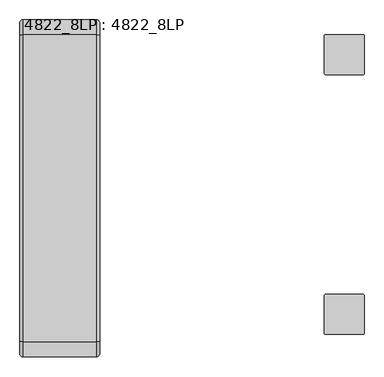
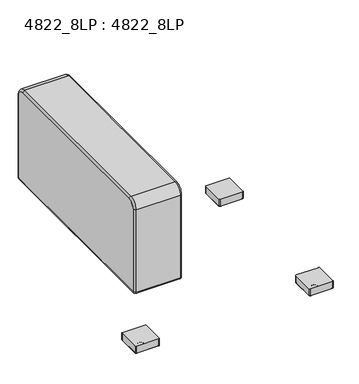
"""IFC4 building model written with IfcOpenShell, lengths in millimetres: furniture geometry, 4822_8LP : 4822_8LP."""

from ifc_helpers import new_model, si_unit, point, frame, frame_2d, origin, place, context, project, spatial, polyline, circle_curve, ellipse_curve, trimmed, segment, composite_curve, outline, extrude, source, transform, mapped, element, save
from ifc_brep_helpers import plane_surface, cylinder_surface, revolved_surface, advanced_brep


def furniture_4822_8lp_4822_8lp_c2619356(model_context):
    return source(origin(), model_context, "Body", "SolidModel", [
        advanced_brep(
        [(-254.0, -8.89, 698.8175), (-254.0, -38.1, 728.0275), (-254.0, -819.15, 728.0275), (-254.0, -848.36, 698.8175), (-254.0, -848.36, 330.4403326), (-254.0, -847.8021674, 329.8825), (-254.0, -9.4347305, 329.8825), (-254.0, -8.89, 330.4272305), (-457.2, -38.1, 728.0275), (-457.2, -8.89, 698.8175), (-457.2, -8.89, 330.4272305), (-457.2, -9.4347305, 329.8825), (-457.2, -847.8021674, 329.8825), (-457.2, -848.36, 330.4403326), (-457.2, -848.36, 698.8175), (-457.2, -819.15, 728.0275), (-448.31, -38.1, 736.9175), (-448.31, -819.15, 736.9175), (-262.89, -819.15, 736.9175), (-262.89, -38.1, 736.9175), (-448.31, -857.25, 698.8175), (-262.89, -857.25, 698.8175), (-448.31, -857.25, 330.4403326), (-262.89, -857.25, 330.4403326), (-448.31, -847.8021674, 320.9925), (-262.89, -847.8021674, 320.9925), (-448.31, -9.4347305, 320.9925), (-262.89, -9.4347305, 320.9925), (-400.05, -187.325, 320.9925), (-400.05, -161.925, 320.9925), (-400.05, -695.325, 320.9925), (-400.05, -669.925, 320.9925), (-448.31, 0.0, 330.4272305), (-262.89, 0.0, 330.4272305), (-448.31, 0.0, 698.8175), (-262.89, 0.0, 698.8175), (-400.05, -161.925, 333.6925), (-400.05, -187.325, 333.6925), (-400.05, -669.925, 333.6925), (-400.05, -695.325, 333.6925)],
        [
            (0, 1, circle_curve(frame((-254.0, -38.1, 698.8175), z_axis=(1.0, 0.0, 0.0), x_axis=(0.0, 0.0, 1.0)), 29.21)),
            (1, 2),
            (2, 3, circle_curve(frame((-254.0, -819.15, 698.8175), z_axis=(1.0, 0.0, 0.0), x_axis=(0.0, -1.0, 0.0)), 29.21)),
            (3, 4),
            (4, 5, circle_curve(frame((-254.0, -847.8021674, 330.4403326), z_axis=(1.0, 0.0, 0.0), x_axis=(0.0, 0.0, -1.0)), 0.5578326)),
            (5, 6),
            (6, 7, circle_curve(frame((-254.0, -9.4347305, 330.4272305), z_axis=(1.0, 0.0, 0.0), x_axis=(0.0, 1.0, 0.0)), 0.5447305)),
            (7, 0),
            (8, 9, circle_curve(frame((-457.2, -38.1, 698.8175), z_axis=(-1.0, 0.0, 0.0), x_axis=(0.0, 0.0, 1.0)), 29.21)),
            (9, 10),
            (10, 11, circle_curve(frame((-457.2, -9.4347305, 330.4272305), z_axis=(-1.0, 0.0, 0.0), x_axis=(0.0, 1.0, 0.0)), 0.5447305)),
            (11, 12),
            (12, 13, circle_curve(frame((-457.2, -847.8021674, 330.4403326), z_axis=(-1.0, 0.0, 0.0), x_axis=(0.0, 0.0, -1.0)), 0.5578326)),
            (13, 14),
            (14, 15, circle_curve(frame((-457.2, -819.15, 698.8175), z_axis=(-1.0, 0.0, 0.0), x_axis=(0.0, -1.0, 0.0)), 29.21)),
            (15, 8),
            (16, 17),
            (17, 18),
            (18, 19),
            (19, 16),
            (17, 20, circle_curve(frame((-448.31, -819.15, 698.8175), z_axis=(1.0, 0.0, 0.0), x_axis=(0.0, -1.0, 0.0)), 38.1)),
            (20, 21),
            (21, 18, circle_curve(frame((-262.89, -819.15, 698.8175), z_axis=(-1.0, 0.0, 0.0), x_axis=(0.0, -1.0, 0.0)), 38.1)),
            (20, 22),
            (22, 23),
            (23, 21),
            (22, 24, circle_curve(frame((-448.31, -847.8021674, 330.4403326), z_axis=(1.0, 0.0, 0.0), x_axis=(0.0, -1.0, 0.0)), 9.4478326)),
            (24, 25),
            (25, 23, circle_curve(frame((-262.89, -847.8021674, 330.4403326), z_axis=(-1.0, 0.0, 0.0), x_axis=(0.0, -1.0, 0.0)), 9.4478326)),
            (24, 26),
            (26, 27),
            (27, 25),
            (28, 29, circle_curve(frame((-400.05, -174.625, 320.9925), z_axis=(0.0, 0.0, 1.0), x_axis=(-1.0, 0.0, 0.0)), 12.7)),
            (29, 28),
            (30, 31, circle_curve(frame((-400.05, -682.625, 320.9925), z_axis=(0.0, 0.0, 1.0), x_axis=(-1.0, 0.0, 0.0)), 12.7)),
            (31, 30),
            (26, 32, circle_curve(frame((-448.31, -9.4347305, 330.4272305), z_axis=(1.0, 0.0, 0.0), x_axis=(0.0, -1.0, 0.0)), 9.4347305)),
            (32, 33),
            (33, 27, circle_curve(frame((-262.89, -9.4347305, 330.4272305), z_axis=(-1.0, 0.0, 0.0), x_axis=(0.0, -1.0, 0.0)), 9.4347305)),
            (32, 34),
            (34, 35),
            (35, 33),
            (34, 16, circle_curve(frame((-448.31, -38.1, 698.8175), z_axis=(1.0, 0.0, 0.0), x_axis=(0.0, -1.0, 0.0)), 38.1)),
            (19, 35, circle_curve(frame((-262.89, -38.1, 698.8175), z_axis=(-1.0, 0.0, 0.0), x_axis=(0.0, -1.0, 0.0)), 38.1)),
            (34, 9, circle_curve(frame((-448.31, -8.89, 698.8175), z_axis=(0.0, 0.0, 1.0), x_axis=(1.0, 0.0, 0.0)), 8.89)),
            (8, 16, circle_curve(frame((-448.31, -38.1, 728.0275), z_axis=(0.0, 1.0, 0.0), x_axis=(1.0, 0.0, 0.0)), 8.89)),
            (32, 10, circle_curve(frame((-448.31, -8.89, 330.4272305), z_axis=(0.0, 0.0, 1.0), x_axis=(1.0, 0.0, 0.0)), 8.89)),
            (26, 11, circle_curve(frame((-448.31, -9.4347305, 329.8825), z_axis=(0.0, 1.0, 0.0), x_axis=(1.0, 0.0, 0.0)), 8.89)),
            (24, 12, circle_curve(frame((-448.31, -847.8021674, 329.8825), z_axis=(0.0, 1.0, 0.0), x_axis=(1.0, 0.0, 0.0)), 8.89)),
            (22, 13, circle_curve(frame((-448.31, -848.36, 330.4403326), z_axis=(0.0, 0.0, -1.0), x_axis=(1.0, 0.0, 0.0)), 8.89)),
            (20, 14, circle_curve(frame((-448.31, -848.36, 698.8175), z_axis=(0.0, 0.0, -1.0), x_axis=(1.0, 0.0, 0.0)), 8.89)),
            (17, 15, circle_curve(frame((-448.31, -819.15, 728.0275), z_axis=(0.0, -1.0, 0.0), x_axis=(1.0, 0.0, 0.0)), 8.89)),
            (0, 35, circle_curve(frame((-262.89, -8.89, 698.8175), z_axis=(0.0, 0.0, 1.0), x_axis=(-1.0, 0.0, 0.0)), 8.89)),
            (19, 1, circle_curve(frame((-262.89, -38.1, 728.0275), z_axis=(0.0, 1.0, 0.0), x_axis=(-1.0, 0.0, 0.0)), 8.89)),
            (7, 33, circle_curve(frame((-262.89, -8.89, 330.4272305), z_axis=(0.0, 0.0, 1.0), x_axis=(-1.0, 0.0, 0.0)), 8.89)),
            (6, 27, circle_curve(frame((-262.89, -9.4347305, 329.8825), z_axis=(0.0, 1.0, 0.0), x_axis=(-1.0, 0.0, 0.0)), 8.89)),
            (5, 25, circle_curve(frame((-262.89, -847.8021674, 329.8825), z_axis=(0.0, 1.0, 0.0), x_axis=(-1.0, 0.0, 0.0)), 8.89)),
            (4, 23, circle_curve(frame((-262.89, -848.36, 330.4403326), z_axis=(0.0, 0.0, -1.0), x_axis=(-1.0, 0.0, 0.0)), 8.89)),
            (3, 21, circle_curve(frame((-262.89, -848.36, 698.8175), z_axis=(0.0, 0.0, -1.0), x_axis=(-1.0, 0.0, 0.0)), 8.89)),
            (2, 18, circle_curve(frame((-262.89, -819.15, 728.0275), z_axis=(0.0, -1.0, 0.0), x_axis=(-1.0, 0.0, 0.0)), 8.89)),
            (36, 37, circle_curve(frame((-400.05, -174.625, 333.6925), z_axis=(0.0, 0.0, -1.0), x_axis=(-1.0, 0.0, 0.0)), 12.7)),
            (37, 36),
            (38, 39, circle_curve(frame((-400.05, -682.625, 333.6925), z_axis=(0.0, 0.0, -1.0), x_axis=(-1.0, 0.0, 0.0)), 12.7)),
            (39, 38),
            (36, 29),
            (28, 37),
            (38, 31),
            (30, 39),
        ],
        [
            plane_surface(frame((-254.0, -819.15, 736.9175), z_axis=(1.0, 0.0, 0.0), x_axis=(0.0, -1.0, 0.0))),
            plane_surface(frame((-457.2, -819.15, 736.9175), z_axis=(-1.0, 0.0, 0.0), x_axis=(0.0, 1.0, 0.0))),
            plane_surface(frame((-254.0, -38.1, 736.9175), z_axis=(0.0, 0.0, 1.0), x_axis=(-1.0, 0.0, 0.0))),
            cylinder_surface(frame((-457.2, -819.15, 698.8175), z_axis=(1.0, 0.0, 0.0), x_axis=(0.0, -1.0, 0.0)), 38.1),
            plane_surface(frame((-254.0, -857.25, 698.8175), z_axis=(0.0, -1.0, 0.0), x_axis=(-1.0, 0.0, 0.0))),
            cylinder_surface(frame((-457.2, -847.8021674, 330.4403326), z_axis=(1.0, 0.0, 0.0), x_axis=(0.0, -1.0, 0.0)), 9.4478326),
            plane_surface(frame((-254.0, -847.8021674, 320.9925), z_axis=(0.0, 0.0, -1.0), x_axis=(-1.0, 0.0, 0.0))),
            cylinder_surface(frame((-457.2, -9.4347305, 330.4272305), z_axis=(1.0, 0.0, 0.0), x_axis=(0.0, -1.0, 0.0)), 9.4347305),
            plane_surface(frame((-254.0, 0.0, 330.4272305), z_axis=(0.0, 1.0, 0.0), x_axis=(-1.0, 0.0, 0.0))),
            cylinder_surface(frame((-457.2, -38.1, 698.8175), z_axis=(1.0, 0.0, 0.0), x_axis=(0.0, -1.0, 0.0)), 38.1),
            revolved_surface(trimmed(ellipse_curve(frame((-448.31, -38.1, 728.0275), z_axis=(0.0, -1.0, 0.0), x_axis=(1.0, 0.0, 0.0)), 8.89, 8.89), [point((-448.31, -38.1, 736.9175))], [point((-457.2, -38.1, 728.0275))], True, "CARTESIAN"), (-457.2, -38.1, 698.8175), (-1.0, 0.0, 0.0)),
            cylinder_surface(frame((-448.31, -8.89, 698.8175), z_axis=(0.0, 0.0, -1.0), x_axis=(1.0, 0.0, 0.0)), 8.89),
            revolved_surface(trimmed(ellipse_curve(frame((-448.31, -8.89, 330.4272305), z_axis=(0.0, 0.0, 1.0), x_axis=(1.0, 0.0, 0.0)), 8.89, 8.89), [point((-448.31, 0.0, 330.4272305))], [point((-457.2, -8.89, 330.4272305))], True, "CARTESIAN"), (-457.2, -9.4347305, 330.4272305), (-1.0, 0.0, 0.0)),
            cylinder_surface(frame((-448.31, -9.4347305, 329.8825), z_axis=(0.0, -1.0, 0.0), x_axis=(1.0, 0.0, 0.0)), 8.89),
            revolved_surface(trimmed(ellipse_curve(frame((-448.31, -847.8021674, 329.8825), z_axis=(0.0, 1.0, 0.0), x_axis=(1.0, 0.0, 0.0)), 8.89, 8.89), [point((-448.31, -847.8021674, 320.9925))], [point((-457.2, -847.8021674, 329.8825))], True, "CARTESIAN"), (-457.2, -847.8021674, 330.4403326), (-1.0, 0.0, 0.0)),
            cylinder_surface(frame((-448.31, -848.36, 330.4403326), z_axis=(0.0, 0.0, 1.0), x_axis=(1.0, 0.0, 0.0)), 8.89),
            revolved_surface(trimmed(ellipse_curve(frame((-448.31, -848.36, 698.8175), z_axis=(0.0, 0.0, -1.0), x_axis=(1.0, 0.0, 0.0)), 8.89, 8.89), [point((-448.31, -857.25, 698.8175))], [point((-457.2, -848.36, 698.8175))], True, "CARTESIAN"), (-457.2, -819.15, 698.8175), (-1.0, 0.0, 0.0)),
            cylinder_surface(frame((-448.31, -819.15, 728.0275), z_axis=(0.0, 1.0, 0.0), x_axis=(1.0, 0.0, 0.0)), 8.89),
            revolved_surface(trimmed(ellipse_curve(frame((-262.89, -38.1, 728.0275), z_axis=(0.0, -1.0, 0.0), x_axis=(-1.0, 0.0, 0.0)), 8.89, 8.89), [point((-254.0, -38.1, 728.0275))], [point((-262.89, -38.1, 736.9175))], True, "CARTESIAN"), (-254.0, -38.1, 698.8175), (-1.0, 0.0, 0.0)),
            cylinder_surface(frame((-262.89, -8.89, 698.8175), z_axis=(0.0, 0.0, -1.0), x_axis=(-1.0, 0.0, 0.0)), 8.89),
            revolved_surface(trimmed(ellipse_curve(frame((-262.89, -8.89, 330.4272305), z_axis=(0.0, 0.0, 1.0), x_axis=(-1.0, 0.0, 0.0)), 8.89, 8.89), [point((-254.0, -8.89, 330.4272305))], [point((-262.89, 0.0, 330.4272305))], True, "CARTESIAN"), (-254.0, -9.4347305, 330.4272305), (-1.0, 0.0, 0.0)),
            cylinder_surface(frame((-262.89, -9.4347305, 329.8825), z_axis=(0.0, -1.0, 0.0), x_axis=(-1.0, 0.0, 0.0)), 8.89),
            revolved_surface(trimmed(ellipse_curve(frame((-262.89, -847.8021674, 329.8825), z_axis=(0.0, 1.0, 0.0), x_axis=(-1.0, 0.0, 0.0)), 8.89, 8.89), [point((-254.0, -847.8021674, 329.8825))], [point((-262.89, -847.8021674, 320.9925))], True, "CARTESIAN"), (-254.0, -847.8021674, 330.4403326), (-1.0, 0.0, 0.0)),
            cylinder_surface(frame((-262.89, -848.36, 330.4403326), z_axis=(0.0, 0.0, 1.0), x_axis=(-1.0, 0.0, 0.0)), 8.89),
            revolved_surface(trimmed(ellipse_curve(frame((-262.89, -848.36, 698.8175), z_axis=(0.0, 0.0, -1.0), x_axis=(-1.0, 0.0, 0.0)), 8.89, 8.89), [point((-254.0, -848.36, 698.8175))], [point((-262.89, -857.25, 698.8175))], True, "CARTESIAN"), (-254.0, -819.15, 698.8175), (-1.0, 0.0, 0.0)),
            cylinder_surface(frame((-262.89, -819.15, 728.0275), z_axis=(0.0, 1.0, 0.0), x_axis=(-1.0, 0.0, 0.0)), 8.89),
            plane_surface(frame((-400.05, -187.325, 333.6925), z_axis=(0.0, 0.0, -1.0), x_axis=(0.0, -1.0, 0.0))),
            revolved_surface(polyline([(-412.75, -174.625, 333.6925), (-412.75, -174.625, 320.9925)]), (-400.05, -174.625, 320.9925), (0.0, 0.0, 1.0)),
            plane_surface(frame((-400.05, -161.925, 333.6925), z_axis=(1.0, 0.0, 0.0), x_axis=(0.0, 0.0, -1.0))),
            revolved_surface(polyline([(-412.75, -682.625, 333.6925), (-412.75, -682.625, 320.9925)]), (-400.05, -682.625, 9.8425), (0.0, 0.0, 1.0)),
            plane_surface(frame((-400.05, -669.925, 333.6925), z_axis=(1.0, 0.0, 0.0), x_axis=(0.0, 0.0, -1.0))),
        ],
        [
            (0, [[1, 2, 3, 4, 5, 6, 7, 8]]),
            (1, [[9, 10, 11, 12, 13, 14, 15, 16]]),
            (2, [[17, 18, 19, 20]]),
            (3, [[21, 22, 23, -18]]),
            (4, [[24, 25, 26, -22]]),
            (5, [[27, 28, 29, -25]]),
            (6, [[30, 31, 32, -28], [33, 34], [35, 36]]),
            (7, [[37, 38, 39, -31]]),
            (8, [[40, 41, 42, -38]]),
            (9, [[43, -20, 44, -41]]),
            (10, [[45, -9, 46, -43]]),
            (11, [[-45, -40, 47, -10]]),
            (12, [[-47, -37, 48, -11]]),
            (13, [[-48, -30, 49, -12]]),
            (14, [[-49, -27, 50, -13]]),
            (15, [[-50, -24, 51, -14]]),
            (16, [[-51, -21, 52, -15]]),
            (17, [[-46, -16, -52, -17]]),
            (18, [[53, -44, 54, -1]]),
            (19, [[-53, -8, 55, -42]]),
            (20, [[-55, -7, 56, -39]]),
            (21, [[-56, -6, 57, -32]]),
            (22, [[-57, -5, 58, -29]]),
            (23, [[-58, -4, 59, -26]]),
            (24, [[-59, -3, 60, -23]]),
            (25, [[-54, -19, -60, -2]]),
            (26, [[61, 62]]),
            (26, [[63, 64]]),
            (27, [[-61, 65, -33, 66]]),
            (28, [[-62, -66, -34, -65]]),
            (29, [[-63, 67, -35, 68]]),
            (30, [[-64, -68, -36, -67]]),
        ],
    ),
        advanced_brep(
        [(-320.675, -698.5, 41.5925), (-415.925, -698.5, 41.5925), (-419.1, -701.675, 41.5925), (-419.1, -796.925, 41.5925), (-415.925, -800.1, 41.5925), (-320.675, -800.1, 41.5925), (-317.5, -796.925, 41.5925), (-317.5, -701.675, 41.5925), (-417.83, -701.675, 11.1125), (-415.925, -699.77, 11.1125), (-320.675, -699.77, 11.1125), (-318.77, -701.675, 11.1125), (-318.77, -796.925, 11.1125), (-320.675, -798.83, 11.1125), (-415.925, -798.83, 11.1125), (-417.83, -796.925, 11.1125), (-320.675, -698.5, 11.1125), (-415.925, -698.5, 11.1125), (-419.1, -701.675, 11.1125), (-419.1, -796.925, 11.1125), (-415.925, -800.1, 11.1125), (-320.675, -800.1, 11.1125), (-317.5, -796.925, 11.1125), (-317.5, -701.675, 11.1125), (-415.925, -699.77, 9.8425), (-417.83, -701.675, 9.8425), (-320.675, -699.77, 9.8425), (-318.77, -701.675, 9.8425), (-318.77, -796.925, 9.8425), (-320.675, -798.83, 9.8425), (-415.925, -798.83, 9.8425), (-417.83, -796.925, 9.8425)],
        [
            (0, 1),
            (1, 2, circle_curve(frame((-415.925, -701.675, 41.5925), z_axis=(0.0, 0.0, 1.0), x_axis=(1.0, 0.0, 0.0)), 3.175)),
            (2, 3),
            (3, 4, circle_curve(frame((-415.925, -796.925, 41.5925), z_axis=(0.0, 0.0, 1.0), x_axis=(1.0, 0.0, 0.0)), 3.175)),
            (4, 5),
            (5, 6, circle_curve(frame((-320.675, -796.925, 41.5925), z_axis=(0.0, 0.0, 1.0), x_axis=(1.0, 0.0, 0.0)), 3.175)),
            (6, 7),
            (7, 0, circle_curve(frame((-320.675, -701.675, 41.5925), z_axis=(0.0, 0.0, 1.0), x_axis=(1.0, 0.0, 0.0)), 3.175)),
            (8, 9, circle_curve(frame((-415.925, -701.675, 11.1125), z_axis=(0.0, 0.0, -1.0), x_axis=(-1.0, 0.0, 0.0)), 1.905)),
            (9, 10),
            (10, 11, circle_curve(frame((-320.675, -701.675, 11.1125), z_axis=(0.0, 0.0, -1.0), x_axis=(0.0, 1.0, 0.0)), 1.905)),
            (11, 12),
            (12, 13, circle_curve(frame((-320.675, -796.925, 11.1125), z_axis=(0.0, 0.0, -1.0), x_axis=(1.0, 0.0, 0.0)), 1.905)),
            (13, 14),
            (14, 15, circle_curve(frame((-415.925, -796.925, 11.1125), z_axis=(0.0, 0.0, -1.0), x_axis=(0.0, -1.0, 0.0)), 1.905)),
            (15, 8),
            (0, 16),
            (16, 17),
            (17, 1),
            (17, 18, circle_curve(frame((-415.925, -701.675, 11.1125), z_axis=(0.0, 0.0, 1.0), x_axis=(1.0, 0.0, 0.0)), 3.175)),
            (18, 2),
            (18, 19),
            (19, 3),
            (19, 20, circle_curve(frame((-415.925, -796.925, 11.1125), z_axis=(0.0, 0.0, 1.0), x_axis=(1.0, 0.0, 0.0)), 3.175)),
            (20, 4),
            (20, 21),
            (21, 5),
            (21, 22, circle_curve(frame((-320.675, -796.925, 11.1125), z_axis=(0.0, 0.0, 1.0), x_axis=(1.0, 0.0, 0.0)), 3.175)),
            (22, 6),
            (22, 23),
            (23, 7),
            (23, 16, circle_curve(frame((-320.675, -701.675, 11.1125), z_axis=(0.0, 0.0, 1.0), x_axis=(1.0, 0.0, 0.0)), 3.175)),
            (24, 25, circle_curve(frame((-415.925, -701.675, 9.8425), z_axis=(0.0, 0.0, 1.0), x_axis=(-1.0, 0.0, 0.0)), 1.905)),
            (25, 18, circle_curve(frame((-417.83, -701.675, 11.1125), z_axis=(0.0, 1.0, 0.0), x_axis=(1.0, 0.0, 0.0)), 1.27)),
            (17, 24, circle_curve(frame((-415.925, -699.77, 11.1125), z_axis=(-1.0, 0.0, 0.0), x_axis=(0.0, -1.0, 0.0)), 1.27)),
            (16, 26, circle_curve(frame((-320.675, -699.77, 11.1125), z_axis=(-1.0, 0.0, 0.0), x_axis=(0.0, -1.0, 0.0)), 1.27)),
            (26, 24),
            (23, 27, circle_curve(frame((-318.77, -701.675, 11.1125), z_axis=(0.0, 1.0, 0.0), x_axis=(-1.0, 0.0, 0.0)), 1.27)),
            (27, 26, circle_curve(frame((-320.675, -701.675, 9.8425), z_axis=(0.0, 0.0, 1.0), x_axis=(0.0, 1.0, 0.0)), 1.905)),
            (22, 28, circle_curve(frame((-318.77, -796.925, 11.1125), z_axis=(0.0, 1.0, 0.0), x_axis=(-1.0, 0.0, 0.0)), 1.27)),
            (28, 27),
            (21, 29, circle_curve(frame((-320.675, -798.83, 11.1125), z_axis=(1.0, 0.0, 0.0), x_axis=(0.0, 1.0, 0.0)), 1.27)),
            (29, 28, circle_curve(frame((-320.675, -796.925, 9.8425), z_axis=(0.0, 0.0, 1.0), x_axis=(1.0, 0.0, 0.0)), 1.905)),
            (20, 30, circle_curve(frame((-415.925, -798.83, 11.1125), z_axis=(1.0, 0.0, 0.0), x_axis=(0.0, 1.0, 0.0)), 1.27)),
            (30, 29),
            (19, 31, circle_curve(frame((-417.83, -796.925, 11.1125), z_axis=(0.0, -1.0, 0.0), x_axis=(1.0, 0.0, 0.0)), 1.27)),
            (31, 30, circle_curve(frame((-415.925, -796.925, 9.8425), z_axis=(0.0, 0.0, 1.0), x_axis=(0.0, -1.0, 0.0)), 1.905)),
            (25, 31),
            (24, 9),
            (8, 25),
            (26, 10),
            (27, 11),
            (28, 12),
            (29, 13),
            (30, 14),
            (31, 15),
        ],
        [
            plane_surface(frame((-415.925, -698.5, 41.5925), z_axis=(0.0, 0.0, 1.0), x_axis=(-1.0, 0.0, 0.0))),
            plane_surface(frame((-415.925, -698.5, 11.1125), z_axis=(0.0, 0.0, -1.0), x_axis=(1.0, 0.0, 0.0))),
            plane_surface(frame((-320.675, -698.5, 41.5925), z_axis=(0.0, 1.0, 0.0), x_axis=(0.0, 0.0, -1.0))),
            cylinder_surface(frame((-415.925, -701.675, 11.1125), z_axis=(0.0, 0.0, 1.0), x_axis=(1.0, 0.0, 0.0)), 3.175),
            plane_surface(frame((-419.1, -701.675, 41.5925), z_axis=(-1.0, 0.0, 0.0), x_axis=(0.0, 0.0, -1.0))),
            cylinder_surface(frame((-415.925, -796.925, 11.1125), z_axis=(0.0, 0.0, 1.0), x_axis=(1.0, 0.0, 0.0)), 3.175),
            plane_surface(frame((-415.925, -800.1, 41.5925), z_axis=(0.0, -1.0, 0.0), x_axis=(0.0, 0.0, -1.0))),
            cylinder_surface(frame((-320.675, -796.925, 11.1125), z_axis=(0.0, 0.0, 1.0), x_axis=(1.0, 0.0, 0.0)), 3.175),
            plane_surface(frame((-317.5, -796.925, 41.5925), z_axis=(1.0, 0.0, 0.0), x_axis=(0.0, 0.0, -1.0))),
            cylinder_surface(frame((-320.675, -701.675, 11.1125), z_axis=(0.0, 0.0, 1.0), x_axis=(1.0, 0.0, 0.0)), 3.175),
            revolved_surface(trimmed(ellipse_curve(frame((-417.83, -701.675, 11.1125), z_axis=(0.0, -1.0, 0.0), x_axis=(1.0, 0.0, 0.0)), 1.27, 1.27), [point((-419.1, -701.675, 11.1125))], [point((-417.83, -701.675, 9.8425))], True, "CARTESIAN"), (-415.925, -701.675, 11.1125), (0.0, 0.0, -1.0)),
            cylinder_surface(frame((-415.925, -699.77, 11.1125), z_axis=(-1.0, 0.0, 0.0), x_axis=(0.0, -1.0, 0.0)), 1.27),
            revolved_surface(trimmed(ellipse_curve(frame((-320.675, -699.77, 11.1125), z_axis=(-1.0, 0.0, 0.0), x_axis=(0.0, -1.0, 0.0)), 1.27, 1.27), [point((-320.675, -698.5, 11.1125))], [point((-320.675, -699.77, 9.8425))], True, "CARTESIAN"), (-320.675, -701.675, 11.1125), (0.0, 0.0, -1.0)),
            cylinder_surface(frame((-318.77, -701.675, 11.1125), z_axis=(0.0, 1.0, 0.0), x_axis=(-1.0, 0.0, 0.0)), 1.27),
            revolved_surface(trimmed(ellipse_curve(frame((-318.77, -796.925, 11.1125), z_axis=(0.0, 1.0, 0.0), x_axis=(-1.0, 0.0, 0.0)), 1.27, 1.27), [point((-317.5, -796.925, 11.1125))], [point((-318.77, -796.925, 9.8425))], True, "CARTESIAN"), (-320.675, -796.925, 11.1125), (0.0, 0.0, -1.0)),
            cylinder_surface(frame((-320.675, -798.83, 11.1125), z_axis=(1.0, 0.0, 0.0), x_axis=(0.0, 1.0, 0.0)), 1.27),
            revolved_surface(trimmed(ellipse_curve(frame((-415.925, -798.83, 11.1125), z_axis=(1.0, 0.0, 0.0), x_axis=(0.0, 1.0, 0.0)), 1.27, 1.27), [point((-415.925, -800.1, 11.1125))], [point((-415.925, -798.83, 9.8425))], True, "CARTESIAN"), (-415.925, -796.925, 11.1125), (0.0, 0.0, -1.0)),
            cylinder_surface(frame((-417.83, -796.925, 11.1125), z_axis=(0.0, -1.0, 0.0), x_axis=(1.0, 0.0, 0.0)), 1.27),
            revolved_surface(polyline([(-417.83, -701.675, 9.8425), (-417.83, -701.675, 11.1125)]), (-415.925, -701.675, 11.1125), (0.0, 0.0, -1.0)),
            plane_surface(frame((-415.925, -699.77, 9.8425), z_axis=(0.0, -1.0, 0.0), x_axis=(1.0, 0.0, 0.0))),
            revolved_surface(polyline([(-320.675, -699.77, 9.8425), (-320.675, -699.77, 11.1125)]), (-320.675, -701.675, 11.1125), (0.0, 0.0, -1.0)),
            plane_surface(frame((-318.77, -701.675, 9.8425), z_axis=(-1.0, 0.0, 0.0), x_axis=(0.0, -1.0, 0.0))),
            revolved_surface(polyline([(-318.77000000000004, -796.925, 9.8425), (-318.77000000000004, -796.925, 11.1125)]), (-320.675, -796.925, 11.1125), (0.0, 0.0, -1.0)),
            plane_surface(frame((-320.675, -798.83, 9.8425), z_axis=(0.0, 1.0, 0.0), x_axis=(-1.0, 0.0, 0.0))),
            revolved_surface(polyline([(-415.925, -798.8299999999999, 9.8425), (-415.925, -798.8299999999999, 11.1125)]), (-415.925, -796.925, 11.1125), (0.0, 0.0, -1.0)),
            plane_surface(frame((-417.83, -796.925, 9.8425), z_axis=(1.0, 0.0, 0.0), x_axis=(0.0, 1.0, 0.0))),
        ],
        [
            (0, [[1, 2, 3, 4, 5, 6, 7, 8]]),
            (1, [[9, 10, 11, 12, 13, 14, 15, 16]]),
            (2, [[-1, 17, 18, 19]]),
            (3, [[-2, -19, 20, 21]]),
            (4, [[-3, -21, 22, 23]]),
            (5, [[-4, -23, 24, 25]]),
            (6, [[-5, -25, 26, 27]]),
            (7, [[-6, -27, 28, 29]]),
            (8, [[-7, -29, 30, 31]]),
            (9, [[-8, -31, 32, -17]]),
            (10, [[33, 34, -20, 35]]),
            (11, [[-35, -18, 36, 37]]),
            (12, [[-36, -32, 38, 39]]),
            (13, [[-38, -30, 40, 41]]),
            (14, [[-40, -28, 42, 43]]),
            (15, [[-42, -26, 44, 45]]),
            (16, [[-44, -24, 46, 47]]),
            (17, [[-34, 48, -46, -22]]),
            (18, [[-33, 49, -9, 50]]),
            (19, [[-37, 51, -10, -49]]),
            (20, [[-39, 52, -11, -51]]),
            (21, [[-41, 53, -12, -52]]),
            (22, [[-43, 54, -13, -53]]),
            (23, [[-45, 55, -14, -54]]),
            (24, [[-47, 56, -15, -55]]),
            (25, [[-48, -50, -16, -56]]),
        ],
    ),
        extrude(outline(composite_curve([segment(trimmed(circle_curve(frame_2d((-415.925, -796.925)), 1.905), [point((-415.925, -798.83))], [point((-417.83, -796.925))], False, "CARTESIAN"), True, "CONTINUOUS"), segment(polyline([(-417.83, -796.925), (-417.83, -701.675)]), True, "CONTINUOUS"), segment(trimmed(circle_curve(frame_2d((-415.925, -701.675)), 1.905), [point((-417.83, -701.675))], [point((-415.925, -699.77))], False, "CARTESIAN"), True, "CONTINUOUS"), segment(polyline([(-415.925, -699.77), (-320.675, -699.77)]), True, "CONTINUOUS"), segment(trimmed(circle_curve(frame_2d((-320.675, -701.675)), 1.905), [point((-320.675, -699.77))], [point((-318.77, -701.675))], False, "CARTESIAN"), True, "CONTINUOUS"), segment(polyline([(-318.77, -701.675), (-318.77, -796.925)]), True, "CONTINUOUS"), segment(trimmed(circle_curve(frame_2d((-320.675, -796.925)), 1.905), [point((-318.77, -796.925))], [point((-320.675, -798.83))], False, "CARTESIAN"), True, "CONTINUOUS"), segment(polyline([(-320.675, -798.83), (-415.925, -798.83)]), True, "CONTINUOUS")], self_intersect=False)), frame((0.0, 0.0, 9.8425), z_axis=(0.0, 0.0, 1.0), x_axis=(1.0, 0.0, 0.0)), (0.0, 0.0, 1.0), 1.27),
        advanced_brep(
        [(-378.4521334, -749.3, 0.0), (-358.1478666, -749.3, 0.0), (-368.3, -749.3, 0.0), (-378.7775, -749.3, 5.08), (-357.8225, -749.3, 5.08), (-378.7775, -749.3, 9.0481974), (-357.8225, -749.3, 9.0481974), (-377.9831974, -749.3, 9.8425), (-358.6168026, -749.3, 9.8425), (-368.3, -749.3, 9.8425)],
        [
            (0, 1, circle_curve(frame((-368.3, -749.3, 0.0), z_axis=(0.0, 0.0, -1.0), x_axis=(1.0, 0.0, 0.0)), 10.1521334)),
            (1, 2),
            (2, 0),
            (1, 0, circle_curve(frame((-368.3, -749.3, 0.0), z_axis=(0.0, 0.0, -1.0), x_axis=(1.0, 0.0, 0.0)), 10.1521334)),
            (3, 4, circle_curve(frame((-368.3, -749.3, 5.08), z_axis=(0.0, 0.0, -1.0), x_axis=(1.0, 0.0, 0.0)), 10.4775)),
            (4, 1, circle_curve(frame((-358.1478666, -749.3, 2.5504196), z_axis=(0.0, 1.0, 0.0), x_axis=(1.0, 0.0, 0.0)), 2.5504196)),
            (0, 3, circle_curve(frame((-378.4521334, -749.3, 2.5504196), z_axis=(0.0, 1.0, 0.0), x_axis=(-1.0, 0.0, 0.0)), 2.5504196)),
            (4, 3, circle_curve(frame((-368.3, -749.3, 5.08), z_axis=(0.0, 0.0, -1.0), x_axis=(1.0, 0.0, 0.0)), 10.4775)),
            (5, 6, circle_curve(frame((-368.3, -749.3, 9.0481974), z_axis=(0.0, 0.0, -1.0), x_axis=(1.0, 0.0, 0.0)), 10.4775)),
            (6, 4),
            (3, 5),
            (6, 5, circle_curve(frame((-368.3, -749.3, 9.0481974), z_axis=(0.0, 0.0, -1.0), x_axis=(1.0, 0.0, 0.0)), 10.4775)),
            (7, 8, circle_curve(frame((-368.3, -749.3, 9.8425), z_axis=(0.0, 0.0, -1.0), x_axis=(1.0, 0.0, 0.0)), 9.6831974)),
            (8, 6, circle_curve(frame((-358.6168026, -749.3, 9.0481974), z_axis=(0.0, 1.0, 0.0), x_axis=(1.0, 0.0, 0.0)), 0.7943026)),
            (5, 7, circle_curve(frame((-377.9831974, -749.3, 9.0481974), z_axis=(0.0, 1.0, 0.0), x_axis=(-1.0, 0.0, 0.0)), 0.7943026)),
            (8, 7, circle_curve(frame((-368.3, -749.3, 9.8425), z_axis=(0.0, 0.0, -1.0), x_axis=(1.0, 0.0, 0.0)), 9.6831974)),
            (9, 8),
            (7, 9),
        ],
        [
            plane_surface(frame((-368.3, -749.3, 0.0), z_axis=(0.0, 0.0, -1.0), x_axis=(1.0, 0.0, 0.0))),
            revolved_surface(trimmed(ellipse_curve(frame((-358.1478666, -749.3, 2.5504196), z_axis=(0.0, -1.0, 0.0), x_axis=(1.0, 0.0, 0.0)), 2.5504196, 2.5504196), [point((-358.1478666, -749.3, 0.0))], [point((-357.8225, -749.3, 5.08))], True, "CARTESIAN"), (-368.3, -749.3, 9.8425), (0.0, 0.0, 1.0)),
            cylinder_surface(frame((-368.3, -749.3, 9.8425), z_axis=(0.0, 0.0, 1.0), x_axis=(1.0, 0.0, 0.0)), 10.4775),
            revolved_surface(trimmed(ellipse_curve(frame((-358.6168026, -749.3, 9.0481974), z_axis=(0.0, -1.0, 0.0), x_axis=(1.0, 0.0, 0.0)), 0.7943026, 0.7943026), [point((-357.8225, -749.3, 9.0481974))], [point((-358.6168026, -749.3, 9.8425))], True, "CARTESIAN"), (-368.3, -749.3, 9.8425), (0.0, 0.0, 1.0)),
            plane_surface(frame((-368.3, -749.3, 9.8425), z_axis=(0.0, 0.0, 1.0), x_axis=(1.0, 0.0, 0.0))),
        ],
        [
            (0, [[1, 2, 3]]),
            (0, [[4, -3, -2]]),
            (1, [[5, 6, -1, 7]]),
            (1, [[8, -7, -4, -6]]),
            (2, [[9, 10, -5, 11]]),
            (2, [[12, -11, -8, -10]]),
            (3, [[13, 14, -9, 15]]),
            (3, [[16, -15, -12, -14]]),
            (4, [[17, -13, 18]]),
            (4, [[-18, -16, -17]]),
        ],
    ),
        advanced_brep(
        [(415.925, -698.5, 41.5925), (320.675, -698.5, 41.5925), (317.5, -701.675, 41.5925), (317.5, -796.925, 41.5925), (320.675, -800.1, 41.5925), (415.925, -800.1, 41.5925), (419.1, -796.925, 41.5925), (419.1, -701.675, 41.5925), (318.77, -701.675, 11.1125), (320.675, -699.77, 11.1125), (415.925, -699.77, 11.1125), (417.83, -701.675, 11.1125), (417.83, -796.925, 11.1125), (415.925, -798.83, 11.1125), (320.675, -798.83, 11.1125), (318.77, -796.925, 11.1125), (415.925, -698.5, 11.1125), (320.675, -698.5, 11.1125), (317.5, -701.675, 11.1125), (317.5, -796.925, 11.1125), (320.675, -800.1, 11.1125), (415.925, -800.1, 11.1125), (419.1, -796.925, 11.1125), (419.1, -701.675, 11.1125), (320.675, -699.77, 9.8425), (318.77, -701.675, 9.8425), (415.925, -699.77, 9.8425), (417.83, -701.675, 9.8425), (417.83, -796.925, 9.8425), (415.925, -798.83, 9.8425), (320.675, -798.83, 9.8425), (318.77, -796.925, 9.8425)],
        [
            (0, 1),
            (1, 2, circle_curve(frame((320.675, -701.675, 41.5925), z_axis=(0.0, 0.0, 1.0), x_axis=(1.0, 0.0, 0.0)), 3.175)),
            (2, 3),
            (3, 4, circle_curve(frame((320.675, -796.925, 41.5925), z_axis=(0.0, 0.0, 1.0), x_axis=(1.0, 0.0, 0.0)), 3.175)),
            (4, 5),
            (5, 6, circle_curve(frame((415.925, -796.925, 41.5925), z_axis=(0.0, 0.0, 1.0), x_axis=(1.0, 0.0, 0.0)), 3.175)),
            (6, 7),
            (7, 0, circle_curve(frame((415.925, -701.675, 41.5925), z_axis=(0.0, 0.0, 1.0), x_axis=(1.0, 0.0, 0.0)), 3.175)),
            (8, 9, circle_curve(frame((320.675, -701.675, 11.1125), z_axis=(0.0, 0.0, -1.0), x_axis=(-1.0, 0.0, 0.0)), 1.905)),
            (9, 10),
            (10, 11, circle_curve(frame((415.925, -701.675, 11.1125), z_axis=(0.0, 0.0, -1.0), x_axis=(0.0, 1.0, 0.0)), 1.905)),
            (11, 12),
            (12, 13, circle_curve(frame((415.925, -796.925, 11.1125), z_axis=(0.0, 0.0, -1.0), x_axis=(1.0, 0.0, 0.0)), 1.905)),
            (13, 14),
            (14, 15, circle_curve(frame((320.675, -796.925, 11.1125), z_axis=(0.0, 0.0, -1.0), x_axis=(0.0, -1.0, 0.0)), 1.905)),
            (15, 8),
            (0, 16),
            (16, 17),
            (17, 1),
            (17, 18, circle_curve(frame((320.675, -701.675, 11.1125), z_axis=(0.0, 0.0, 1.0), x_axis=(1.0, 0.0, 0.0)), 3.175)),
            (18, 2),
            (18, 19),
            (19, 3),
            (19, 20, circle_curve(frame((320.675, -796.925, 11.1125), z_axis=(0.0, 0.0, 1.0), x_axis=(1.0, 0.0, 0.0)), 3.175)),
            (20, 4),
            (20, 21),
            (21, 5),
            (21, 22, circle_curve(frame((415.925, -796.925, 11.1125), z_axis=(0.0, 0.0, 1.0), x_axis=(1.0, 0.0, 0.0)), 3.175)),
            (22, 6),
            (22, 23),
            (23, 7),
            (23, 16, circle_curve(frame((415.925, -701.675, 11.1125), z_axis=(0.0, 0.0, 1.0), x_axis=(1.0, 0.0, 0.0)), 3.175)),
            (24, 25, circle_curve(frame((320.675, -701.675, 9.8425), z_axis=(0.0, 0.0, 1.0), x_axis=(-1.0, 0.0, 0.0)), 1.905)),
            (25, 18, circle_curve(frame((318.77, -701.675, 11.1125), z_axis=(0.0, 1.0, 0.0), x_axis=(1.0, 0.0, 0.0)), 1.27)),
            (17, 24, circle_curve(frame((320.675, -699.77, 11.1125), z_axis=(-1.0, 0.0, 0.0), x_axis=(0.0, -1.0, 0.0)), 1.27)),
            (16, 26, circle_curve(frame((415.925, -699.77, 11.1125), z_axis=(-1.0, 0.0, 0.0), x_axis=(0.0, -1.0, 0.0)), 1.27)),
            (26, 24),
            (23, 27, circle_curve(frame((417.83, -701.675, 11.1125), z_axis=(0.0, 1.0, 0.0), x_axis=(-1.0, 0.0, 0.0)), 1.27)),
            (27, 26, circle_curve(frame((415.925, -701.675, 9.8425), z_axis=(0.0, 0.0, 1.0), x_axis=(0.0, 1.0, 0.0)), 1.905)),
            (22, 28, circle_curve(frame((417.83, -796.925, 11.1125), z_axis=(0.0, 1.0, 0.0), x_axis=(-1.0, 0.0, 0.0)), 1.27)),
            (28, 27),
            (21, 29, circle_curve(frame((415.925, -798.83, 11.1125), z_axis=(1.0, 0.0, 0.0), x_axis=(0.0, 1.0, 0.0)), 1.27)),
            (29, 28, circle_curve(frame((415.925, -796.925, 9.8425), z_axis=(0.0, 0.0, 1.0), x_axis=(1.0, 0.0, 0.0)), 1.905)),
            (20, 30, circle_curve(frame((320.675, -798.83, 11.1125), z_axis=(1.0, 0.0, 0.0), x_axis=(0.0, 1.0, 0.0)), 1.27)),
            (30, 29),
            (19, 31, circle_curve(frame((318.77, -796.925, 11.1125), z_axis=(0.0, -1.0, 0.0), x_axis=(1.0, 0.0, 0.0)), 1.27)),
            (31, 30, circle_curve(frame((320.675, -796.925, 9.8425), z_axis=(0.0, 0.0, 1.0), x_axis=(0.0, -1.0, 0.0)), 1.905)),
            (25, 31),
            (24, 9),
            (8, 25),
            (26, 10),
            (27, 11),
            (28, 12),
            (29, 13),
            (30, 14),
            (31, 15),
        ],
        [
            plane_surface(frame((320.675, -698.5, 41.5925), z_axis=(0.0, 0.0, 1.0), x_axis=(-1.0, 0.0, 0.0))),
            plane_surface(frame((320.675, -698.5, 11.1125), z_axis=(0.0, 0.0, -1.0), x_axis=(1.0, 0.0, 0.0))),
            plane_surface(frame((415.925, -698.5, 41.5925), z_axis=(0.0, 1.0, 0.0), x_axis=(0.0, 0.0, -1.0))),
            cylinder_surface(frame((320.675, -701.675, 11.1125), z_axis=(0.0, 0.0, 1.0), x_axis=(1.0, 0.0, 0.0)), 3.175),
            plane_surface(frame((317.5, -701.675, 41.5925), z_axis=(-1.0, 0.0, 0.0), x_axis=(0.0, 0.0, -1.0))),
            cylinder_surface(frame((320.675, -796.925, 11.1125), z_axis=(0.0, 0.0, 1.0), x_axis=(1.0, 0.0, 0.0)), 3.175),
            plane_surface(frame((320.675, -800.1, 41.5925), z_axis=(0.0, -1.0, 0.0), x_axis=(0.0, 0.0, -1.0))),
            cylinder_surface(frame((415.925, -796.925, 11.1125), z_axis=(0.0, 0.0, 1.0), x_axis=(1.0, 0.0, 0.0)), 3.175),
            plane_surface(frame((419.1, -796.925, 41.5925), z_axis=(1.0, 0.0, 0.0), x_axis=(0.0, 0.0, -1.0))),
            cylinder_surface(frame((415.925, -701.675, 11.1125), z_axis=(0.0, 0.0, 1.0), x_axis=(1.0, 0.0, 0.0)), 3.175),
            revolved_surface(trimmed(ellipse_curve(frame((318.77, -701.675, 11.1125), z_axis=(0.0, -1.0, 0.0), x_axis=(1.0, 0.0, 0.0)), 1.27, 1.27), [point((317.5, -701.675, 11.1125))], [point((318.77, -701.675, 9.8425))], True, "CARTESIAN"), (320.675, -701.675, 11.1125), (0.0, 0.0, -1.0)),
            cylinder_surface(frame((320.675, -699.77, 11.1125), z_axis=(-1.0, 0.0, 0.0), x_axis=(0.0, -1.0, 0.0)), 1.27),
            revolved_surface(trimmed(ellipse_curve(frame((415.925, -699.77, 11.1125), z_axis=(-1.0, 0.0, 0.0), x_axis=(0.0, -1.0, 0.0)), 1.27, 1.27), [point((415.925, -698.5, 11.1125))], [point((415.925, -699.77, 9.8425))], True, "CARTESIAN"), (415.925, -701.675, 11.1125), (0.0, 0.0, -1.0)),
            cylinder_surface(frame((417.83, -701.675, 11.1125), z_axis=(0.0, 1.0, 0.0), x_axis=(-1.0, 0.0, 0.0)), 1.27),
            revolved_surface(trimmed(ellipse_curve(frame((417.83, -796.925, 11.1125), z_axis=(0.0, 1.0, 0.0), x_axis=(-1.0, 0.0, 0.0)), 1.27, 1.27), [point((419.1, -796.925, 11.1125))], [point((417.83, -796.925, 9.8425))], True, "CARTESIAN"), (415.925, -796.925, 11.1125), (0.0, 0.0, -1.0)),
            cylinder_surface(frame((415.925, -798.83, 11.1125), z_axis=(1.0, 0.0, 0.0), x_axis=(0.0, 1.0, 0.0)), 1.27),
            revolved_surface(trimmed(ellipse_curve(frame((320.675, -798.83, 11.1125), z_axis=(1.0, 0.0, 0.0), x_axis=(0.0, 1.0, 0.0)), 1.27, 1.27), [point((320.675, -800.1, 11.1125))], [point((320.675, -798.83, 9.8425))], True, "CARTESIAN"), (320.675, -796.925, 11.1125), (0.0, 0.0, -1.0)),
            cylinder_surface(frame((318.77, -796.925, 11.1125), z_axis=(0.0, -1.0, 0.0), x_axis=(1.0, 0.0, 0.0)), 1.27),
            revolved_surface(polyline([(318.77000000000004, -701.675, 9.8425), (318.77000000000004, -701.675, 11.1125)]), (320.675, -701.675, 11.1125), (0.0, 0.0, -1.0)),
            plane_surface(frame((320.675, -699.77, 9.8425), z_axis=(0.0, -1.0, 0.0), x_axis=(1.0, 0.0, 0.0))),
            revolved_surface(polyline([(415.925, -699.77, 9.8425), (415.925, -699.77, 11.1125)]), (415.925, -701.675, 11.1125), (0.0, 0.0, -1.0)),
            plane_surface(frame((417.83, -701.675, 9.8425), z_axis=(-1.0, 0.0, 0.0), x_axis=(0.0, -1.0, 0.0))),
            revolved_surface(polyline([(417.83, -796.925, 9.8425), (417.83, -796.925, 11.1125)]), (415.925, -796.925, 11.1125), (0.0, 0.0, -1.0)),
            plane_surface(frame((415.925, -798.83, 9.8425), z_axis=(0.0, 1.0, 0.0), x_axis=(-1.0, 0.0, 0.0))),
            revolved_surface(polyline([(320.675, -798.8299999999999, 9.8425), (320.675, -798.8299999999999, 11.1125)]), (320.675, -796.925, 11.1125), (0.0, 0.0, -1.0)),
            plane_surface(frame((318.77, -796.925, 9.8425), z_axis=(1.0, 0.0, 0.0), x_axis=(0.0, 1.0, 0.0))),
        ],
        [
            (0, [[1, 2, 3, 4, 5, 6, 7, 8]]),
            (1, [[9, 10, 11, 12, 13, 14, 15, 16]]),
            (2, [[-1, 17, 18, 19]]),
            (3, [[-2, -19, 20, 21]]),
            (4, [[-3, -21, 22, 23]]),
            (5, [[-4, -23, 24, 25]]),
            (6, [[-5, -25, 26, 27]]),
            (7, [[-6, -27, 28, 29]]),
            (8, [[-7, -29, 30, 31]]),
            (9, [[-8, -31, 32, -17]]),
            (10, [[33, 34, -20, 35]]),
            (11, [[-35, -18, 36, 37]]),
            (12, [[-36, -32, 38, 39]]),
            (13, [[-38, -30, 40, 41]]),
            (14, [[-40, -28, 42, 43]]),
            (15, [[-42, -26, 44, 45]]),
            (16, [[-44, -24, 46, 47]]),
            (17, [[-34, 48, -46, -22]]),
            (18, [[-33, 49, -9, 50]]),
            (19, [[-37, 51, -10, -49]]),
            (20, [[-39, 52, -11, -51]]),
            (21, [[-41, 53, -12, -52]]),
            (22, [[-43, 54, -13, -53]]),
            (23, [[-45, 55, -14, -54]]),
            (24, [[-47, 56, -15, -55]]),
            (25, [[-48, -50, -16, -56]]),
        ],
    ),
        extrude(outline(composite_curve([segment(trimmed(circle_curve(frame_2d((320.675, -796.925)), 1.905), [point((320.675, -798.83))], [point((318.77, -796.925))], False, "CARTESIAN"), True, "CONTINUOUS"), segment(polyline([(318.77, -796.925), (318.77, -701.675)]), True, "CONTINUOUS"), segment(trimmed(circle_curve(frame_2d((320.675, -701.675)), 1.905), [point((318.77, -701.675))], [point((320.675, -699.77))], False, "CARTESIAN"), True, "CONTINUOUS"), segment(polyline([(320.675, -699.77), (415.925, -699.77)]), True, "CONTINUOUS"), segment(trimmed(circle_curve(frame_2d((415.925, -701.675)), 1.905), [point((415.925, -699.77))], [point((417.83, -701.675))], False, "CARTESIAN"), True, "CONTINUOUS"), segment(polyline([(417.83, -701.675), (417.83, -796.925)]), True, "CONTINUOUS"), segment(trimmed(circle_curve(frame_2d((415.925, -796.925)), 1.905), [point((417.83, -796.925))], [point((415.925, -798.83))], False, "CARTESIAN"), True, "CONTINUOUS"), segment(polyline([(415.925, -798.83), (320.675, -798.83)]), True, "CONTINUOUS")], self_intersect=False)), frame((0.0, 0.0, 9.8425), z_axis=(0.0, 0.0, 1.0), x_axis=(1.0, 0.0, 0.0)), (0.0, 0.0, 1.0), 1.27),
        advanced_brep(
        [(358.1478666, -749.3, 0.0), (378.4521334, -749.3, 0.0), (368.3, -749.3, 0.0), (357.8225, -749.3, 5.08), (378.7775, -749.3, 5.08), (357.8225, -749.3, 9.0481974), (378.7775, -749.3, 9.0481974), (358.6168026, -749.3, 9.8425), (377.9831974, -749.3, 9.8425), (368.3, -749.3, 9.8425)],
        [
            (0, 1, circle_curve(frame((368.3, -749.3, 0.0), z_axis=(0.0, 0.0, -1.0), x_axis=(1.0, 0.0, 0.0)), 10.1521334)),
            (1, 2),
            (2, 0),
            (1, 0, circle_curve(frame((368.3, -749.3, 0.0), z_axis=(0.0, 0.0, -1.0), x_axis=(1.0, 0.0, 0.0)), 10.1521334)),
            (3, 4, circle_curve(frame((368.3, -749.3, 5.08), z_axis=(0.0, 0.0, -1.0), x_axis=(1.0, 0.0, 0.0)), 10.4775)),
            (4, 1, circle_curve(frame((378.4521334, -749.3, 2.5504196), z_axis=(0.0, 1.0, 0.0), x_axis=(1.0, 0.0, 0.0)), 2.5504196)),
            (0, 3, circle_curve(frame((358.1478666, -749.3, 2.5504196), z_axis=(0.0, 1.0, 0.0), x_axis=(-1.0, 0.0, 0.0)), 2.5504196)),
            (4, 3, circle_curve(frame((368.3, -749.3, 5.08), z_axis=(0.0, 0.0, -1.0), x_axis=(1.0, 0.0, 0.0)), 10.4775)),
            (5, 6, circle_curve(frame((368.3, -749.3, 9.0481974), z_axis=(0.0, 0.0, -1.0), x_axis=(1.0, 0.0, 0.0)), 10.4775)),
            (6, 4),
            (3, 5),
            (6, 5, circle_curve(frame((368.3, -749.3, 9.0481974), z_axis=(0.0, 0.0, -1.0), x_axis=(1.0, 0.0, 0.0)), 10.4775)),
            (7, 8, circle_curve(frame((368.3, -749.3, 9.8425), z_axis=(0.0, 0.0, -1.0), x_axis=(1.0, 0.0, 0.0)), 9.6831974)),
            (8, 6, circle_curve(frame((377.9831974, -749.3, 9.0481974), z_axis=(0.0, 1.0, 0.0), x_axis=(1.0, 0.0, 0.0)), 0.7943026)),
            (5, 7, circle_curve(frame((358.6168026, -749.3, 9.0481974), z_axis=(0.0, 1.0, 0.0), x_axis=(-1.0, 0.0, 0.0)), 0.7943026)),
            (8, 7, circle_curve(frame((368.3, -749.3, 9.8425), z_axis=(0.0, 0.0, -1.0), x_axis=(1.0, 0.0, 0.0)), 9.6831974)),
            (9, 8),
            (7, 9),
        ],
        [
            plane_surface(frame((368.3, -749.3, 0.0), z_axis=(0.0, 0.0, -1.0), x_axis=(1.0, 0.0, 0.0))),
            revolved_surface(trimmed(ellipse_curve(frame((378.4521334, -749.3, 2.5504196), z_axis=(0.0, -1.0, 0.0), x_axis=(1.0, 0.0, 0.0)), 2.5504196, 2.5504196), [point((378.4521334, -749.3, 0.0))], [point((378.7775, -749.3, 5.08))], True, "CARTESIAN"), (368.3, -749.3, 9.8425), (0.0, 0.0, 1.0)),
            cylinder_surface(frame((368.3, -749.3, 9.8425), z_axis=(0.0, 0.0, 1.0), x_axis=(1.0, 0.0, 0.0)), 10.4775),
            revolved_surface(trimmed(ellipse_curve(frame((377.9831974, -749.3, 9.0481974), z_axis=(0.0, -1.0, 0.0), x_axis=(1.0, 0.0, 0.0)), 0.7943026, 0.7943026), [point((378.7775, -749.3, 9.0481974))], [point((377.9831974, -749.3, 9.8425))], True, "CARTESIAN"), (368.3, -749.3, 9.8425), (0.0, 0.0, 1.0)),
            plane_surface(frame((368.3, -749.3, 9.8425), z_axis=(0.0, 0.0, 1.0), x_axis=(1.0, 0.0, 0.0))),
        ],
        [
            (0, [[1, 2, 3]]),
            (0, [[4, -3, -2]]),
            (1, [[5, 6, -1, 7]]),
            (1, [[8, -7, -4, -6]]),
            (2, [[9, 10, -5, 11]]),
            (2, [[12, -11, -8, -10]]),
            (3, [[13, 14, -9, 15]]),
            (3, [[16, -15, -12, -14]]),
            (4, [[17, -13, 18]]),
            (4, [[-18, -16, -17]]),
        ],
    ),
        advanced_brep(
        [(415.925, -38.1, 41.5925), (320.675, -38.1, 41.5925), (317.5, -41.275, 41.5925), (317.5, -136.525, 41.5925), (320.675, -139.7, 41.5925), (415.925, -139.7, 41.5925), (419.1, -136.525, 41.5925), (419.1, -41.275, 41.5925), (318.77, -41.275, 11.1125), (320.675, -39.37, 11.1125), (415.925, -39.37, 11.1125), (417.83, -41.275, 11.1125), (417.83, -136.525, 11.1125), (415.925, -138.43, 11.1125), (320.675, -138.43, 11.1125), (318.77, -136.525, 11.1125), (415.925, -38.1, 11.1125), (320.675, -38.1, 11.1125), (317.5, -41.275, 11.1125), (317.5, -136.525, 11.1125), (320.675, -139.7, 11.1125), (415.925, -139.7, 11.1125), (419.1, -136.525, 11.1125), (419.1, -41.275, 11.1125), (320.675, -39.37, 9.8425), (318.77, -41.275, 9.8425), (415.925, -39.37, 9.8425), (417.83, -41.275, 9.8425), (417.83, -136.525, 9.8425), (415.925, -138.43, 9.8425), (320.675, -138.43, 9.8425), (318.77, -136.525, 9.8425)],
        [
            (0, 1),
            (1, 2, circle_curve(frame((320.675, -41.275, 41.5925), z_axis=(0.0, 0.0, 1.0), x_axis=(1.0, 0.0, 0.0)), 3.175)),
            (2, 3),
            (3, 4, circle_curve(frame((320.675, -136.525, 41.5925), z_axis=(0.0, 0.0, 1.0), x_axis=(1.0, 0.0, 0.0)), 3.175)),
            (4, 5),
            (5, 6, circle_curve(frame((415.925, -136.525, 41.5925), z_axis=(0.0, 0.0, 1.0), x_axis=(1.0, 0.0, 0.0)), 3.175)),
            (6, 7),
            (7, 0, circle_curve(frame((415.925, -41.275, 41.5925), z_axis=(0.0, 0.0, 1.0), x_axis=(1.0, 0.0, 0.0)), 3.175)),
            (8, 9, circle_curve(frame((320.675, -41.275, 11.1125), z_axis=(0.0, 0.0, -1.0), x_axis=(-1.0, 0.0, 0.0)), 1.905)),
            (9, 10),
            (10, 11, circle_curve(frame((415.925, -41.275, 11.1125), z_axis=(0.0, 0.0, -1.0), x_axis=(0.0, 1.0, 0.0)), 1.905)),
            (11, 12),
            (12, 13, circle_curve(frame((415.925, -136.525, 11.1125), z_axis=(0.0, 0.0, -1.0), x_axis=(1.0, 0.0, 0.0)), 1.905)),
            (13, 14),
            (14, 15, circle_curve(frame((320.675, -136.525, 11.1125), z_axis=(0.0, 0.0, -1.0), x_axis=(0.0, -1.0, 0.0)), 1.905)),
            (15, 8),
            (0, 16),
            (16, 17),
            (17, 1),
            (17, 18, circle_curve(frame((320.675, -41.275, 11.1125), z_axis=(0.0, 0.0, 1.0), x_axis=(1.0, 0.0, 0.0)), 3.175)),
            (18, 2),
            (18, 19),
            (19, 3),
            (19, 20, circle_curve(frame((320.675, -136.525, 11.1125), z_axis=(0.0, 0.0, 1.0), x_axis=(1.0, 0.0, 0.0)), 3.175)),
            (20, 4),
            (20, 21),
            (21, 5),
            (21, 22, circle_curve(frame((415.925, -136.525, 11.1125), z_axis=(0.0, 0.0, 1.0), x_axis=(1.0, 0.0, 0.0)), 3.175)),
            (22, 6),
            (22, 23),
            (23, 7),
            (23, 16, circle_curve(frame((415.925, -41.275, 11.1125), z_axis=(0.0, 0.0, 1.0), x_axis=(1.0, 0.0, 0.0)), 3.175)),
            (24, 25, circle_curve(frame((320.675, -41.275, 9.8425), z_axis=(0.0, 0.0, 1.0), x_axis=(-1.0, 0.0, 0.0)), 1.905)),
            (25, 18, circle_curve(frame((318.77, -41.275, 11.1125), z_axis=(0.0, 1.0, 0.0), x_axis=(1.0, 0.0, 0.0)), 1.27)),
            (17, 24, circle_curve(frame((320.675, -39.37, 11.1125), z_axis=(-1.0, 0.0, 0.0), x_axis=(0.0, -1.0, 0.0)), 1.27)),
            (16, 26, circle_curve(frame((415.925, -39.37, 11.1125), z_axis=(-1.0, 0.0, 0.0), x_axis=(0.0, -1.0, 0.0)), 1.27)),
            (26, 24),
            (23, 27, circle_curve(frame((417.83, -41.275, 11.1125), z_axis=(0.0, 1.0, 0.0), x_axis=(-1.0, 0.0, 0.0)), 1.27)),
            (27, 26, circle_curve(frame((415.925, -41.275, 9.8425), z_axis=(0.0, 0.0, 1.0), x_axis=(0.0, 1.0, 0.0)), 1.905)),
            (22, 28, circle_curve(frame((417.83, -136.525, 11.1125), z_axis=(0.0, 1.0, 0.0), x_axis=(-1.0, 0.0, 0.0)), 1.27)),
            (28, 27),
            (21, 29, circle_curve(frame((415.925, -138.43, 11.1125), z_axis=(1.0, 0.0, 0.0), x_axis=(0.0, 1.0, 0.0)), 1.27)),
            (29, 28, circle_curve(frame((415.925, -136.525, 9.8425), z_axis=(0.0, 0.0, 1.0), x_axis=(1.0, 0.0, 0.0)), 1.905)),
            (20, 30, circle_curve(frame((320.675, -138.43, 11.1125), z_axis=(1.0, 0.0, 0.0), x_axis=(0.0, 1.0, 0.0)), 1.27)),
            (30, 29),
            (19, 31, circle_curve(frame((318.77, -136.525, 11.1125), z_axis=(0.0, -1.0, 0.0), x_axis=(1.0, 0.0, 0.0)), 1.27)),
            (31, 30, circle_curve(frame((320.675, -136.525, 9.8425), z_axis=(0.0, 0.0, 1.0), x_axis=(0.0, -1.0, 0.0)), 1.905)),
            (25, 31),
            (24, 9),
            (8, 25),
            (26, 10),
            (27, 11),
            (28, 12),
            (29, 13),
            (30, 14),
            (31, 15),
        ],
        [
            plane_surface(frame((320.675, -38.1, 41.5925), z_axis=(0.0, 0.0, 1.0), x_axis=(-1.0, 0.0, 0.0))),
            plane_surface(frame((320.675, -38.1, 11.1125), z_axis=(0.0, 0.0, -1.0), x_axis=(1.0, 0.0, 0.0))),
            plane_surface(frame((415.925, -38.1, 41.5925), z_axis=(0.0, 1.0, 0.0), x_axis=(0.0, 0.0, -1.0))),
            cylinder_surface(frame((320.675, -41.275, 11.1125), z_axis=(0.0, 0.0, 1.0), x_axis=(1.0, 0.0, 0.0)), 3.175),
            plane_surface(frame((317.5, -41.275, 41.5925), z_axis=(-1.0, 0.0, 0.0), x_axis=(0.0, 0.0, -1.0))),
            cylinder_surface(frame((320.675, -136.525, 11.1125), z_axis=(0.0, 0.0, 1.0), x_axis=(1.0, 0.0, 0.0)), 3.175),
            plane_surface(frame((320.675, -139.7, 41.5925), z_axis=(0.0, -1.0, 0.0), x_axis=(0.0, 0.0, -1.0))),
            cylinder_surface(frame((415.925, -136.525, 11.1125), z_axis=(0.0, 0.0, 1.0), x_axis=(1.0, 0.0, 0.0)), 3.175),
            plane_surface(frame((419.1, -136.525, 41.5925), z_axis=(1.0, 0.0, 0.0), x_axis=(0.0, 0.0, -1.0))),
            cylinder_surface(frame((415.925, -41.275, 11.1125), z_axis=(0.0, 0.0, 1.0), x_axis=(1.0, 0.0, 0.0)), 3.175),
            revolved_surface(trimmed(ellipse_curve(frame((318.77, -41.275, 11.1125), z_axis=(0.0, -1.0, 0.0), x_axis=(1.0, 0.0, 0.0)), 1.27, 1.27), [point((317.5, -41.275, 11.1125))], [point((318.77, -41.275, 9.8425))], True, "CARTESIAN"), (320.675, -41.275, 11.1125), (0.0, 0.0, -1.0)),
            cylinder_surface(frame((320.675, -39.37, 11.1125), z_axis=(-1.0, 0.0, 0.0), x_axis=(0.0, -1.0, 0.0)), 1.27),
            revolved_surface(trimmed(ellipse_curve(frame((415.925, -39.37, 11.1125), z_axis=(-1.0, 0.0, 0.0), x_axis=(0.0, -1.0, 0.0)), 1.27, 1.27), [point((415.925, -38.1, 11.1125))], [point((415.925, -39.37, 9.8425))], True, "CARTESIAN"), (415.925, -41.275, 11.1125), (0.0, 0.0, -1.0)),
            cylinder_surface(frame((417.83, -41.275, 11.1125), z_axis=(0.0, 1.0, 0.0), x_axis=(-1.0, 0.0, 0.0)), 1.27),
            revolved_surface(trimmed(ellipse_curve(frame((417.83, -136.525, 11.1125), z_axis=(0.0, 1.0, 0.0), x_axis=(-1.0, 0.0, 0.0)), 1.27, 1.27), [point((419.1, -136.525, 11.1125))], [point((417.83, -136.525, 9.8425))], True, "CARTESIAN"), (415.925, -136.525, 11.1125), (0.0, 0.0, -1.0)),
            cylinder_surface(frame((415.925, -138.43, 11.1125), z_axis=(1.0, 0.0, 0.0), x_axis=(0.0, 1.0, 0.0)), 1.27),
            revolved_surface(trimmed(ellipse_curve(frame((320.675, -138.43, 11.1125), z_axis=(1.0, 0.0, 0.0), x_axis=(0.0, 1.0, 0.0)), 1.27, 1.27), [point((320.675, -139.7, 11.1125))], [point((320.675, -138.43, 9.8425))], True, "CARTESIAN"), (320.675, -136.525, 11.1125), (0.0, 0.0, -1.0)),
            cylinder_surface(frame((318.77, -136.525, 11.1125), z_axis=(0.0, -1.0, 0.0), x_axis=(1.0, 0.0, 0.0)), 1.27),
            revolved_surface(polyline([(318.77000000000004, -41.275, 9.8425), (318.77000000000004, -41.275, 11.1125)]), (320.675, -41.275, 11.1125), (0.0, 0.0, -1.0)),
            plane_surface(frame((320.675, -39.37, 9.8425), z_axis=(0.0, -1.0, 0.0), x_axis=(1.0, 0.0, 0.0))),
            revolved_surface(polyline([(415.925, -39.37, 9.8425), (415.925, -39.37, 11.1125)]), (415.925, -41.275, 11.1125), (0.0, 0.0, -1.0)),
            plane_surface(frame((417.83, -41.275, 9.8425), z_axis=(-1.0, 0.0, 0.0), x_axis=(0.0, -1.0, 0.0))),
            revolved_surface(polyline([(417.83, -136.525, 9.8425), (417.83, -136.525, 11.1125)]), (415.925, -136.525, 11.1125), (0.0, 0.0, -1.0)),
            plane_surface(frame((415.925, -138.43, 9.8425), z_axis=(0.0, 1.0, 0.0), x_axis=(-1.0, 0.0, 0.0))),
            revolved_surface(polyline([(320.675, -138.43, 9.8425), (320.675, -138.43, 11.1125)]), (320.675, -136.525, 11.1125), (0.0, 0.0, -1.0)),
            plane_surface(frame((318.77, -136.525, 9.8425), z_axis=(1.0, 0.0, 0.0), x_axis=(0.0, 1.0, 0.0))),
        ],
        [
            (0, [[1, 2, 3, 4, 5, 6, 7, 8]]),
            (1, [[9, 10, 11, 12, 13, 14, 15, 16]]),
            (2, [[-1, 17, 18, 19]]),
            (3, [[-2, -19, 20, 21]]),
            (4, [[-3, -21, 22, 23]]),
            (5, [[-4, -23, 24, 25]]),
            (6, [[-5, -25, 26, 27]]),
            (7, [[-6, -27, 28, 29]]),
            (8, [[-7, -29, 30, 31]]),
            (9, [[-8, -31, 32, -17]]),
            (10, [[33, 34, -20, 35]]),
            (11, [[-35, -18, 36, 37]]),
            (12, [[-36, -32, 38, 39]]),
            (13, [[-38, -30, 40, 41]]),
            (14, [[-40, -28, 42, 43]]),
            (15, [[-42, -26, 44, 45]]),
            (16, [[-44, -24, 46, 47]]),
            (17, [[-34, 48, -46, -22]]),
            (18, [[-33, 49, -9, 50]]),
            (19, [[-37, 51, -10, -49]]),
            (20, [[-39, 52, -11, -51]]),
            (21, [[-41, 53, -12, -52]]),
            (22, [[-43, 54, -13, -53]]),
            (23, [[-45, 55, -14, -54]]),
            (24, [[-47, 56, -15, -55]]),
            (25, [[-48, -50, -16, -56]]),
        ],
    ),
    ])


if __name__ == "__main__":
    model = new_model("IFC4")
    model_context = context("Model", 3, world=origin())
    ifc_project = project(units=[si_unit("LENGTHUNIT", "METRE", prefix="MILLI")], contexts=[model_context])
    site = spatial("IfcSite", under=ifc_project)
    building = spatial("IfcBuilding", under=site)
    placement = place(None, origin())
    furniture_4822_8lp_4822_8lp_shape = furniture_4822_8lp_4822_8lp_c2619356(model_context)
    element("IfcFurniture", 1, ObjectType="4822_8LP : 4822_8LP", at=placement, inside=building, context=model_context, shape_type="MappedRepresentation", body=[
        mapped(furniture_4822_8lp_4822_8lp_shape, transform((0.0, 0.0, 0.0), x_axis=(1.0, 0.0, 0.0), y_axis=(0.0, 1.0, 0.0), z_axis=(0.0, 0.0, 1.0))),
    ])
    save(model, "model.ifc")
